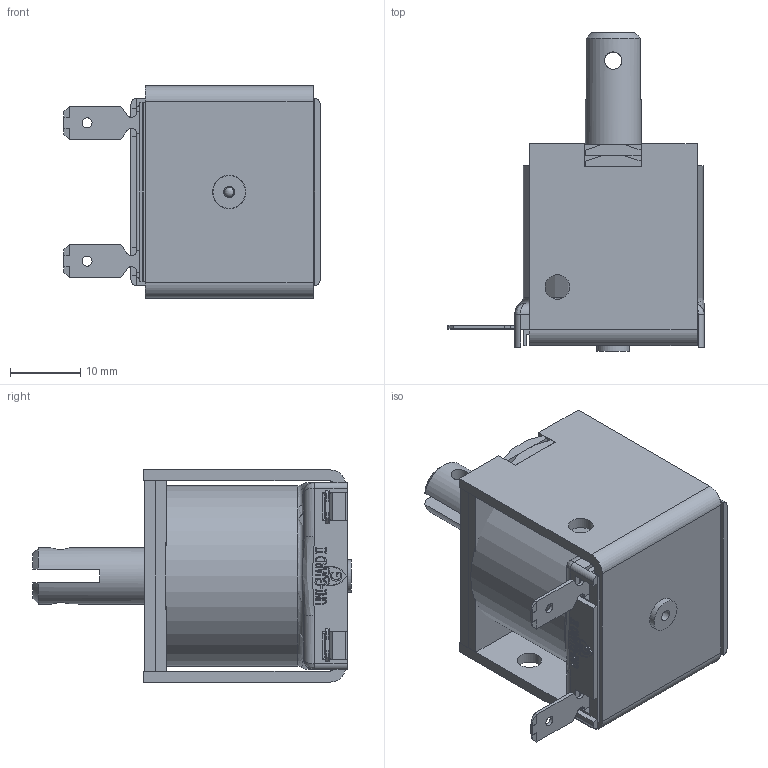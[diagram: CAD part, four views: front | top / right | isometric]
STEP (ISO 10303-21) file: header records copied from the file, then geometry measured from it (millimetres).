
FILE_DESCRIPTION((''),'2;1');
FILE_NAME('C:\Website 3D Models STP Files\MODEL 28.stp','2014-07-14T11:15:23',('Dennis'),(''),'Autodesk Inventor 2013','Autodesk Inventor 2013','');
FILE_SCHEMA(('AUTOMOTIVE_DESIGN { 1 0 10303 214 1 1 1 1 }'));
Length unit declared in the file: inch
Products named in the file (3): MODEL 28; A420-065453-00_Shrinkwrap_1; 104-010291-02
Assembly tree (2 placements, depth 2):
  MODEL 28
    A420-065453-00_Shrinkwrap_1
    104-010291-02
Bounding box: 36.37 x 45.21 x 30.12 mm (x, y, z)
Volume: 10566 mm3; surface area: 17414.6 mm2
Topology: 9 solids, 9 shells, 655 faces, 1769 edges, 1156 vertices
Faces by surface type: plane 435, cylinder 105, bspline 99, torus 11, cone 4, sphere 1
Full cylindrical faces by diameter (mm): 1.397 x2, 1.6 x1, 2.464 x2, 3.505 x3, 4.623 x1, 4.75 x1, 7.925 x1, 7.95 x1, 8.128 x1, 9.474 x1, 9.55 x2, 9.652 x1, 19.05 x1, 19.456 x1, 23.8 x1, 24.003 x1, 25.578 x1
Entity records: 21718 total; most frequent: CARTESIAN_POINT 5544, ORIENTED_EDGE 3456, DIRECTION 2894, EDGE_CURVE 1728, VECTOR 1284, LINE 1284, VERTEX_POINT 1145, AXIS2_PLACEMENT_3D 805
